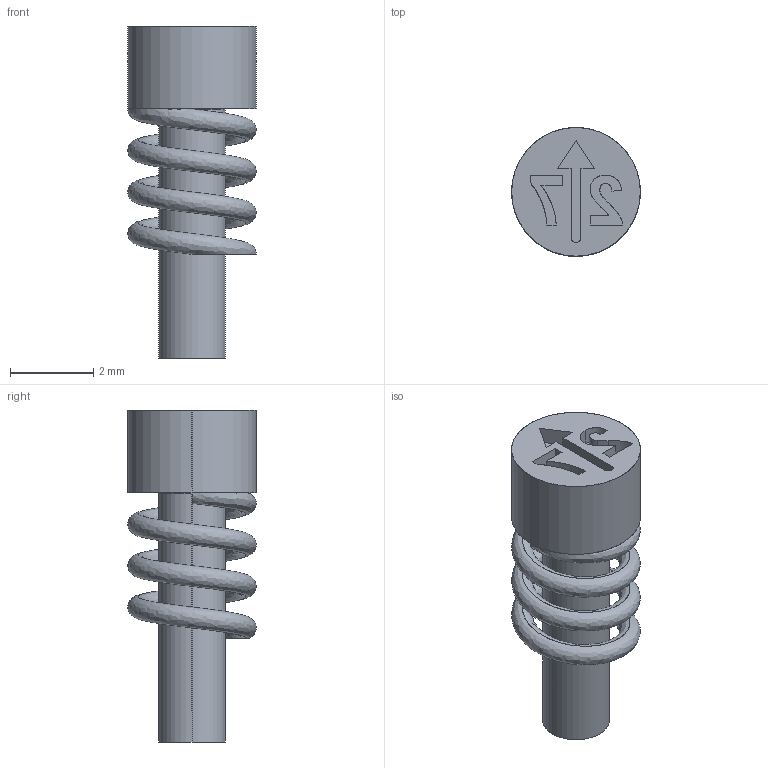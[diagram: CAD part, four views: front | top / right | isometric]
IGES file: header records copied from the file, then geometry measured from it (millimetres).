
Start section: SolidWorks IGES file using analytic representation for surfaces
Global section: file name: C:\temp\GO\Files\DCP06-27.igs; native system: SolidWorks 2023; preprocessor: SolidWorks 2023; author: andrew.sweeney; date: 260123.140354; units: millimetre
Bounding box: 3.1 x 3.1 x 8 mm (x, y, z)
Surface area: 115.7 mm2 (no closed solid volume)
Topology: 0 solids, 0 shells, 43 faces, 518 edges, 518 vertices
Faces by surface type: bspline 38, revolution 5
